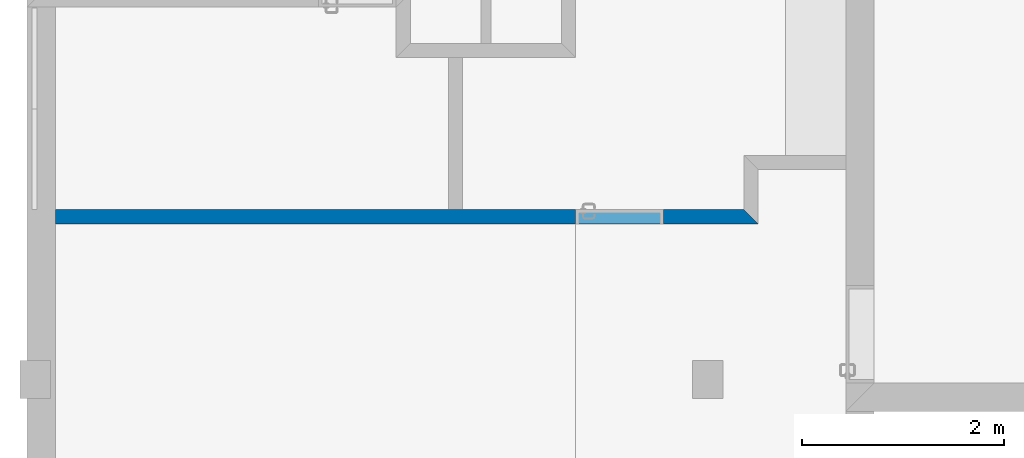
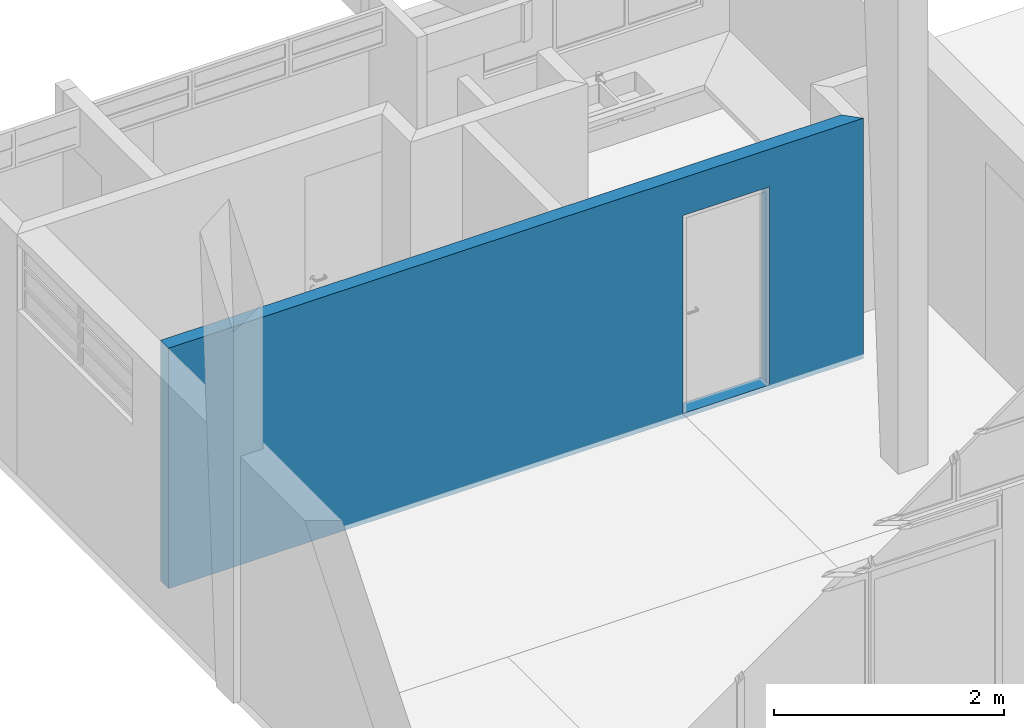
# One storey, part 3 of 16: 1 wall, 1 opening.
"""IFC2X3 building model written with IfcOpenShell, lengths in millimetres."""

from ifc_helpers import new_model, entity, si_unit, converted_unit, derived_unit, money_unit, direction, frame, origin_with_axes, origin_2d_with_axis, place, context, subcontext, project, spatial, polyline, rectangle, outline, extrude, material, layer, layer_set, layer_usage, type_object, element, save


model = new_model("IFC2X3")

# Units and contexts
model_context = context("Model", 3, precision=0.01, world=origin_with_axes(), true_north=direction((0.293984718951, 0.955810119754)))
body_context = subcontext(model_context, "Body", "Model", "MODEL_VIEW")
ifc_project = project(units=[si_unit("LENGTHUNIT", "METRE", prefix="MILLI"), si_unit("AREAUNIT", "SQUARE_METRE"), si_unit("VOLUMEUNIT", "CUBIC_METRE"), converted_unit("PLANEANGLEUNIT", "DEGREE", entity("IfcPlaneAngleMeasure", 0.0174532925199), si_unit("PLANEANGLEUNIT", "RADIAN"), dimensions=[0, 0, 0, 0, 0, 0, 0]), si_unit("SOLIDANGLEUNIT", "STERADIAN"), money_unit("USD"), converted_unit("TIMEUNIT", "Year", entity("IfcTimeMeasure", 31556926.0), si_unit("TIMEUNIT", "SECOND"), dimensions=[0, 0, 1, 0, 0, 0, 0]), si_unit("MASSUNIT", "GRAM", prefix="KILO"), si_unit("THERMODYNAMICTEMPERATUREUNIT", "DEGREE_CELSIUS"), si_unit("LUMINOUSINTENSITYUNIT", "LUMEN"), si_unit("ENERGYUNIT", "JOULE", prefix="MEGA"), derived_unit("THERMALCONDUCTANCEUNIT", [(si_unit("POWERUNIT", "WATT"), 1), (si_unit("LENGTHUNIT", "METRE"), -1), (si_unit("THERMODYNAMICTEMPERATUREUNIT", "KELVIN"), -1)]), derived_unit("SPECIFICHEATCAPACITYUNIT", [(si_unit("ENERGYUNIT", "JOULE"), 1), (si_unit("MASSUNIT", "GRAM", prefix="KILO"), -1), (si_unit("THERMODYNAMICTEMPERATUREUNIT", "KELVIN"), -1)]), derived_unit("MASSDENSITYUNIT", [(si_unit("MASSUNIT", "GRAM", prefix="KILO"), 1), (si_unit("VOLUMEUNIT", "CUBIC_METRE"), -1)])], contexts=[model_context])

# Site, building, storey
site_placement = place(None, origin_with_axes())
site = spatial("IfcSite", under=ifc_project, at=site_placement, Name="Local", CompositionType="ELEMENT")
building_placement = place(site_placement, origin_with_axes())
building = spatial("IfcBuilding", under=site, at=building_placement, Name="Construção", CompositionType="ELEMENT")
storey_placement = place(building_placement, origin_with_axes())
storey = spatial("IfcBuildingStorey", under=building, at=storey_placement, Name="Pavimento Térreo", CompositionType="ELEMENT", Elevation=0.0)

# Wall, opening
ifc_material_1 = material(Name="Reboco (1)")
ifc_layer_1 = layer(ifc_material_1, 20.0, ventilated="UNKNOWN")
ifc_material_2 = material(Name="Tijolo - Estrutural (1)")
ifc_layer_2 = layer(ifc_material_2, 100.0, ventilated="UNKNOWN")
ifc_layer_3 = layer(ifc_material_1, 20.0, ventilated="UNKNOWN")
ifc_layer_set = layer_set([ifc_layer_1, ifc_layer_2, ifc_layer_3], Name="Alvenaria Tijolo Maciço com Revestimento 14cm")
ifc_layer_usage = layer_usage(ifc_layer_set, "AXIS2", "NEGATIVE", 70.0)
wall_type = type_object("IfcWallType", Name="Alvenaria Tijolo Maciço com Revestimento 14cm 140", PredefinedType="NOTDEFINED")
wall_placement = place(storey_placement, frame((7079.64507267, 8900.6321979, 50.0), z_axis=(0.0, 0.0, 1.0), x_axis=(1.0, 0.0, 0.0)))
wall = element("IfcWallStandardCase", 1, at=wall_placement, inside=storey, type_object=wall_type, material=ifc_layer_usage, Name="Parede", context=body_context, shape_type="SweptSolid", body=[
    extrude(outline(polyline([(280.0, -70.0), (7250.00000003, -70.0), (7110.00000003, 70.0), (280.0, 70.0), (280.0, -70.0)])), origin_with_axes(), (0.0, 0.0, 1.0), 2550.0),
])
opening_placement = place(wall_placement, frame((5875.0, 0.0, 50.0), z_axis=(0.0, 0.0, 1.0), x_axis=(1.0, 0.0, 0.0)))
element("IfcOpeningElement", 2, at=opening_placement, cuts=wall, Name="P05", context=body_context, shape_type="SweptSolid", body=[
    extrude(rectangle(XDim=870.0, YDim=2100.0, at=origin_2d_with_axis()), frame((0.0, -140.0, 1050.0), z_axis=(0.0, 1.0, 0.0), x_axis=(1.0, 0.0, 0.0)), (0.0, 0.0, 1.0), 420.0),
])

save(model, "model.ifc")
